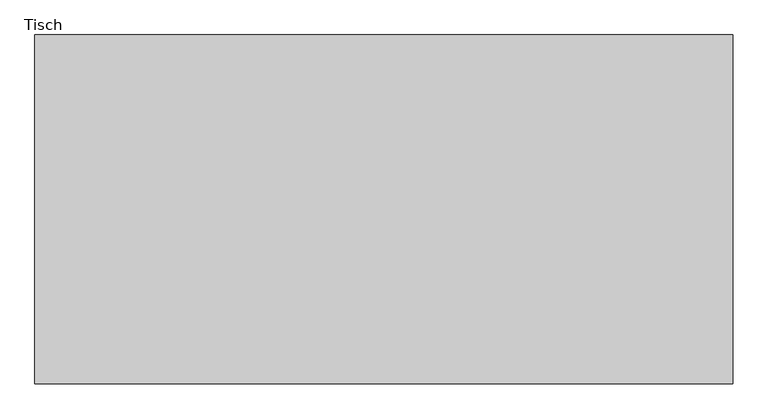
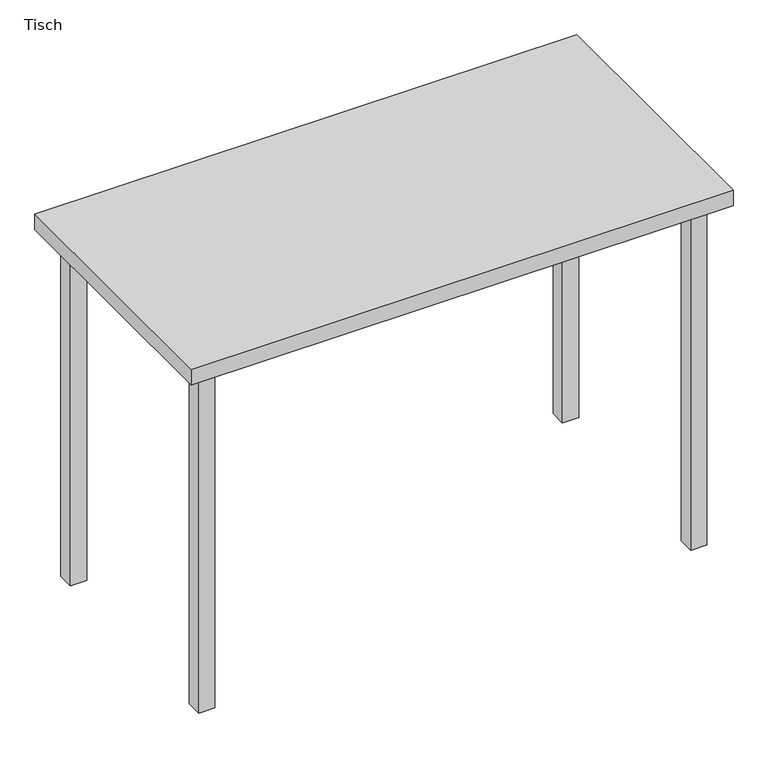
"""IFC4 building model written with IfcOpenShell, lengths in millimetres: furniture geometry, Mobile Ausstattung Tisch : Tisch."""

from ifc_helpers import new_model, si_unit, frame, origin, origin_with_axes, place, context, project, spatial, polyline, outline, extrude, source, transform, mapped, element, save


def tisch_c2e6e28e(model_context):
    return source(origin(), model_context, "Body", "SweptSolid", [
        extrude(outline(polyline([(469.0578721, 270.0), (469.0578721, 240.0), (439.0578721, 240.0), (439.0578721, 270.0), (469.0578721, 270.0)])), origin_with_axes(), (0.0, 0.0, 1.0), 670.0),
        extrude(outline(polyline([(-469.0578721, 270.5919065), (-438.7917796, 270.5919065), (-438.7917796, 240.0), (-469.0578721, 240.0), (-469.0578721, 270.5919065)])), origin_with_axes(), (0.0, 0.0, 1.0), 670.0),
        extrude(outline(polyline([(-469.0578721, -170.0), (-469.0578721, -140.0), (-439.0578721, -140.0), (-439.0578721, -170.0), (-469.0578721, -170.0)])), origin_with_axes(), (0.0, 0.0, 1.0), 670.0),
        extrude(outline(polyline([(469.0578721, -170.0), (439.0578721, -170.0), (439.0578721, -140.0), (469.0578721, -140.0), (469.0578721, -170.0)])), origin_with_axes(), (0.0, 0.0, 1.0), 670.0),
        extrude(outline(polyline([(500.0, 300.0), (500.0, -200.0), (-500.0, -200.0), (-500.0, 300.0), (500.0, 300.0)])), frame((0.0, 0.0, 670.0), z_axis=(0.0, 0.0, 1.0), x_axis=(1.0, 0.0, 0.0)), (0.0, 0.0, 1.0), 30.0),
    ])


if __name__ == "__main__":
    model = new_model("IFC4")
    model_context = context("Model", 3, world=origin())
    ifc_project = project(units=[si_unit("LENGTHUNIT", "METRE", prefix="MILLI")], contexts=[model_context])
    site = spatial("IfcSite", under=ifc_project)
    building = spatial("IfcBuilding", under=site)
    placement = place(None, origin())
    tisch_shape = tisch_c2e6e28e(model_context)
    element("IfcFurniture", 1, ObjectType="Mobile Ausstattung Tisch : Tisch", at=placement, inside=building, context=model_context, shape_type="MappedRepresentation", body=[
        mapped(tisch_shape, transform((0.0, 0.0, 0.0), x_axis=(1.0, 0.0, 0.0), y_axis=(0.0, 1.0, 0.0), z_axis=(0.0, 0.0, 1.0))),
    ])
    save(model, "model.ifc")
